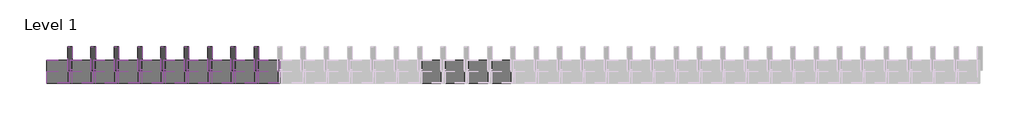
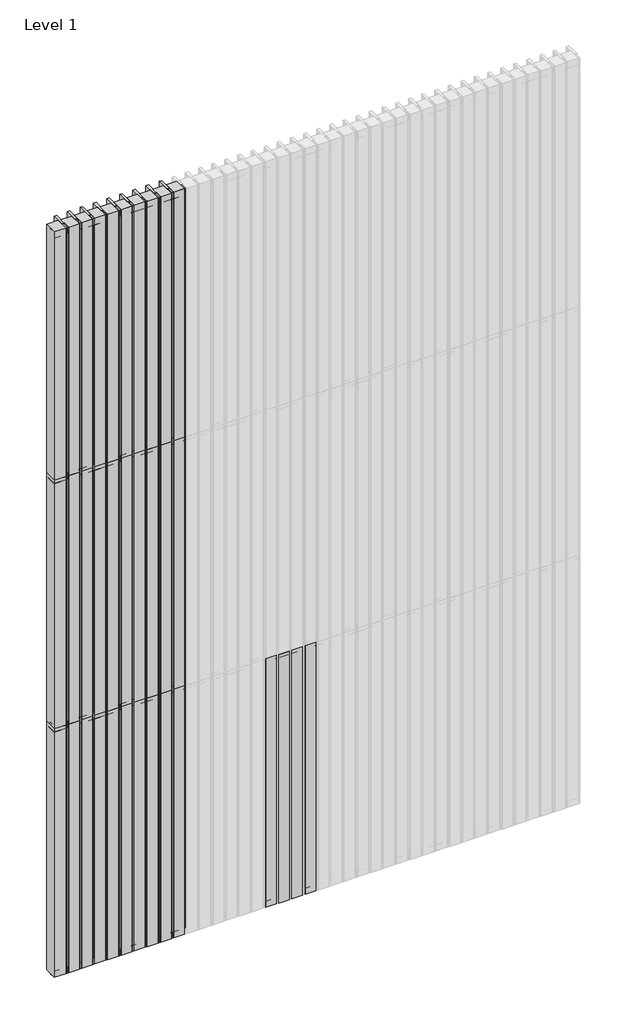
# One storey, part 1 of 6: 66 members, 64 plates.
"""IFC4 building model written with IfcOpenShell, lengths in millimetres."""

import ifcopenshell
import ifcopenshell.guid

model = None  # the IFC model being written
_history = None  # IfcOwnerHistory: only IFC2X3 demands one
_inside = {}  # id of a spatial element -> (the spatial element, [elements in it])
_under = {}  # id of a project, library or spatial element -> (it, [spatial elements below it])
_declared = {}  # id of a project -> (the project, [libraries it declares])
_typed = {}  # id of a type object -> (the type object, [elements of that type])
_made_of = {}  # id of a material, layer set ... -> (it, [elements and type objects made of it])


def new_model(schema):
    """Start an empty IFC model of exactly this schema.

    Asked for "IFC4X3", IfcOpenShell would pick the latest addendum, in which some entities
    have other attributes; the version numbers below select the first issue.
    IFC2X3 requires an IfcOwnerHistory on every rooted entity: one is made here for all.
    """
    global model, _history
    if schema == "IFC4X3":
        model = ifcopenshell.file(schema_version=(4, 3, 0, 0))
    else:
        model = ifcopenshell.file(schema=schema)
    _inside.clear()
    _under.clear()
    _declared.clear()
    _typed.clear()
    _made_of.clear()
    _history = None
    if model.schema == "IFC2X3":
        org = make("IfcOrganization", Name="unknown")
        user = make(
            "IfcPersonAndOrganization",
            ThePerson=make("IfcPerson", FamilyName="unknown"),
            TheOrganization=org,
        )
        app = make(
            "IfcApplication",
            ApplicationDeveloper=org,
            Version="unknown",
            ApplicationFullName="unknown",
            ApplicationIdentifier="unknown",
        )
        _history = make(
            "IfcOwnerHistory",
            OwningUser=user,
            OwningApplication=app,
            ChangeAction="ADDED",
            CreationDate=0,
        )
    return model


def make(cls, **values):
    """One entity of the class cls with the attributes given. An attribute that is None is left unset."""
    return model.create_entity(
        cls, **{name: value for name, value in values.items() if value is not None}
    )


def rooted(cls, **values):
    """An entity with a GlobalId (a new one), such as an element, a storey or a relation."""
    return make(cls, GlobalId=ifcopenshell.guid.new(), OwnerHistory=_history, **values)


def si_unit(unit_type, name, prefix=None):
    """IfcSIUnit, for example si_unit("LENGTHUNIT", "METRE", prefix="MILLI")."""
    return make("IfcSIUnit", UnitType=unit_type, Prefix=prefix, Name=name)


def assignment(units):
    """IfcUnitAssignment: the units of a project."""
    return None if units is None else make("IfcUnitAssignment", Units=units)


def point(xyz):
    """IfcCartesianPoint."""
    return None if xyz is None else make("IfcCartesianPoint", Coordinates=xyz)


def direction(xyz):
    """IfcDirection."""
    return None if xyz is None else make("IfcDirection", DirectionRatios=xyz)


def frame(location, z_axis=None, x_axis=None):
    """IfcAxis2Placement3D, a coordinate frame: its origin and axes. An axis left out is left unset."""
    return make(
        "IfcAxis2Placement3D",
        Location=point(location),
        Axis=direction(z_axis),
        RefDirection=direction(x_axis),
    )


def origin():
    """The frame at (0, 0, 0) with its axes left unset."""
    return frame((0.0, 0.0, 0.0))


def origin_with_axes():
    """The frame at (0, 0, 0) with the z axis (0, 0, 1) and the x axis (1, 0, 0) written out."""
    return frame((0.0, 0.0, 0.0), z_axis=(0.0, 0.0, 1.0), x_axis=(1.0, 0.0, 0.0))


def place(relative_to, where):
    """IfcLocalPlacement: puts the frame where relative to a parent placement (None: the world)."""
    return make(
        "IfcLocalPlacement", PlacementRelTo=relative_to, RelativePlacement=where
    )


def context(
    kind, dimensions, precision=None, world=None, true_north=None, identifier=None
):
    """IfcGeometricRepresentationContext, for example the 3D "Model" context."""
    return make(
        "IfcGeometricRepresentationContext",
        ContextIdentifier=identifier,
        ContextType=kind,
        CoordinateSpaceDimension=dimensions,
        Precision=precision,
        WorldCoordinateSystem=world,
        TrueNorth=true_north,
    )


def project(units=None, contexts=None):
    """IfcProject with its units and contexts."""
    return rooted(
        "IfcProject",
        Name="project",
        RepresentationContexts=contexts,
        UnitsInContext=assignment(units),
    )


def spatial(cls, under=None, at=None, **own):
    """A site, building, storey or space (cls), placed at a placement, below another one or the project."""
    s = rooted(cls, ObjectPlacement=at, **own)
    if under is not None:
        _under.setdefault(under.id(), (under, []))[1].append(s)
    return s


def polyline(points):
    """IfcPolyline through the points."""
    return make("IfcPolyline", Points=[point(p) for p in points])


def outline(outer, holes=None, kind="AREA"):
    """IfcArbitraryClosedProfileDef: a profile drawn as a closed curve; with holes, ...WithVoids."""
    if holes is None:
        return make("IfcArbitraryClosedProfileDef", ProfileType=kind, OuterCurve=outer)
    return make(
        "IfcArbitraryProfileDefWithVoids",
        ProfileType=kind,
        OuterCurve=outer,
        InnerCurves=holes,
    )


def extrude(swept, where, along, depth):
    """IfcExtrudedAreaSolid: the profile swept, set in the frame where, extruded along a direction by depth."""
    return make(
        "IfcExtrudedAreaSolid",
        SweptArea=swept,
        Position=where,
        ExtrudedDirection=direction(along),
        Depth=depth,
    )


def shape(context_of_items, identifier, shape_type, items):
    """IfcShapeRepresentation: the items that make up one representation, for example the "Body"."""
    return make(
        "IfcShapeRepresentation",
        ContextOfItems=context_of_items,
        RepresentationIdentifier=identifier,
        RepresentationType=shape_type,
        Items=items,
    )


def source(mapping_origin, context_of_items, identifier, shape_type, items):
    """IfcRepresentationMap: a shape defined once, which mapped items show again and again."""
    return make(
        "IfcRepresentationMap",
        MappingOrigin=mapping_origin,
        MappedRepresentation=shape(context_of_items, identifier, shape_type, items),
    )


def transform(
    local_origin,
    x_axis=None,
    y_axis=None,
    z_axis=None,
    scale=None,
    scale2=None,
    scale3=None,
    uniform=True,
):
    """IfcCartesianTransformationOperator3D, or its non-uniform kind. x_axis, y_axis, z_axis: its Axis1, 2, 3."""
    if uniform:
        return make(
            "IfcCartesianTransformationOperator3D",
            Axis1=direction(x_axis),
            Axis2=direction(y_axis),
            LocalOrigin=point(local_origin),
            Scale=scale,
            Axis3=direction(z_axis),
        )
    return make(
        "IfcCartesianTransformationOperator3DnonUniform",
        Axis1=direction(x_axis),
        Axis2=direction(y_axis),
        LocalOrigin=point(local_origin),
        Scale=scale,
        Axis3=direction(z_axis),
        Scale2=scale2,
        Scale3=scale3,
    )


def mapped(mapping_source, mapping_target):
    """IfcMappedItem: shows the shape of a source again, moved by a transform."""
    return make(
        "IfcMappedItem", MappingSource=mapping_source, MappingTarget=mapping_target
    )


def made_of(thing, what):
    """Note that an element or type object is made of a material, layer set ...; save() writes the relation."""
    if what is not None:
        _made_of.setdefault(what.id(), (what, []))[1].append(thing)
    return thing


def element(
    cls,
    number,
    at=None,
    inside=None,
    cuts=None,
    type_object=None,
    material=None,
    context=None,
    identifier="Body",
    shape_type=None,
    held_by="IfcProductDefinitionShape",
    body=None,
    shapes=None,
    **own,
):
    """One element of the class cls, such as IfcWall. Its Tag is "e" and its number.

    at: its placement. inside: the storey or other place that contains it. cuts: it is an
    opening in that element (IfcRelVoidsElement). A single representation is given by context,
    identifier, shape_type and body (its items); several are given by shapes. held_by: the class
    of the entity that holds the representations. save() writes the other relations.
    """
    e = rooted(cls, Tag="e%d" % number, ObjectPlacement=at, **own)
    if body is not None:
        shapes = [shape(context, identifier, shape_type, body)]
    if shapes is not None:
        e.Representation = make(held_by, Representations=shapes)
    if inside is not None:
        _inside.setdefault(inside.id(), (inside, []))[1].append(e)
    if cuts is not None:
        rooted(
            "IfcRelVoidsElement", RelatingBuildingElement=cuts, RelatedOpeningElement=e
        )
    if type_object is not None:
        _typed.setdefault(type_object.id(), (type_object, []))[1].append(e)
    return made_of(e, material)


def aggregate(whole, parts):
    """IfcRelAggregates: a whole, such as a stair, and the parts it consists of."""
    return rooted("IfcRelAggregates", RelatingObject=whole, RelatedObjects=parts)


def save(model, path):
    """Write the relations noted so far, then the file.

    IfcRelAggregates (storeys below a building ...), IfcRelContainedInSpatialStructure (elements
    in a storey), IfcRelDefinesByType, IfcRelAssociatesMaterial and IfcRelDeclares: one each for
    every whole, place, type object, material and project.
    """
    for whole, parts in _under.values():
        aggregate(whole, parts)
    for where, things in _inside.values():
        rooted(
            "IfcRelContainedInSpatialStructure",
            RelatedElements=things,
            RelatingStructure=where,
        )
    for kind, things in _typed.values():
        rooted("IfcRelDefinesByType", RelatedObjects=things, RelatingType=kind)
    for what, things in _made_of.values():
        rooted("IfcRelAssociatesMaterial", RelatedObjects=things, RelatingMaterial=what)
    for by, libraries in _declared.values():
        rooted("IfcRelDeclares", RelatingContext=by, RelatedDefinitions=libraries)
    model.write(path)


def rectangular_mullion_cddbc660(model_context):
    return source(origin(), model_context, "Body", "SweptSolid", [
        extrude(outline(polyline([(0.0, 1.0), (0.0, -49.0), (-50.0, -49.0), (-50.0, 1.0), (0.0, 1.0)])), frame((0.0, 0.0, -100.0), z_axis=(0.0, 0.0, 1.0), x_axis=(1.0, 0.0, 0.0)), (0.0, 0.0, 1.0), 100.0),
    ])


def rectangular_mullion_a3e25429(model_context):
    return source(origin(), model_context, "Body", "SweptSolid", [
        extrude(outline(polyline([(-50.0, 1.0), (0.0, 1.0), (0.0, -49.0), (-50.0, -49.0), (-50.0, 1.0)])), frame((0.0, 0.0, -100.0), z_axis=(0.0, 0.0, 1.0), x_axis=(1.0, 0.0, 0.0)), (0.0, 0.0, 1.0), 100.0),
    ])


def rectangular_mullion_ae434dd9(model_context):
    return source(origin(), model_context, "Body", "SweptSolid", [
        extrude(outline(polyline([(25.0, 1.0), (25.0, -49.0), (-25.0, -49.0), (-25.0, 1.0), (25.0, 1.0)])), frame((0.0, 0.0, -100.0), z_axis=(0.0, 0.0, 1.0), x_axis=(1.0, 0.0, 0.0)), (0.0, 0.0, 1.0), 100.0),
    ])


def rectangular_mullion_30cdfca6(model_context):
    return source(origin(), model_context, "Body", "SweptSolid", [
        extrude(outline(polyline([(-10.0, 7.0), (-10.0, 107.0), (10.0, 107.0), (10.0, 7.0), (-10.0, 7.0)])), frame((0.0, 0.0, -2000.0), z_axis=(0.0, 0.0, 1.0), x_axis=(1.0, 0.0, 0.0)), (0.0, 0.0, 1.0), 2000.0),
    ])


def empty_system_panel_empty_5411477d(model_context):
    return source(origin(), model_context, "Body", "SweptSolid", [
        extrude(outline(polyline([(50.0, -50.0), (-50.0, -50.0), (-50.0, 50.0), (50.0, 50.0), (50.0, -50.0)])), origin_with_axes(), (0.0, 0.0, 1.0), 1925.0),
    ])


def empty_system_panel_empty_c50988b4(model_context):
    return source(origin(), model_context, "Body", "SweptSolid", [
        extrude(outline(polyline([(50.0, -50.0), (-50.0, -50.0), (-50.0, 50.0), (50.0, 50.0), (50.0, -50.0)])), origin_with_axes(), (0.0, 0.0, 1.0), 1950.0),
    ])


def empty_system_panel_empty_7f011ee1(model_context):
    return source(origin(), model_context, "Body", "SweptSolid", [
        extrude(outline(polyline([(45.0, -50.0), (-45.0, -50.0), (-45.0, 50.0), (45.0, 50.0), (45.0, -50.0)])), origin_with_axes(), (0.0, 0.0, 1.0), 2000.0),
    ])


def empty_system_panel_empty_3767e820(model_context):
    return source(origin(), model_context, "Body", "SweptSolid", [
        extrude(outline(polyline([(40.0, -50.0), (-40.0, -50.0), (-40.0, 50.0), (40.0, 50.0), (40.0, -50.0)])), origin_with_axes(), (0.0, 0.0, 1.0), 2000.0),
    ])


model = new_model("IFC4")

# Units and contexts
model_context = context("Model", 3, world=origin())
ifc_project = project(units=[si_unit("LENGTHUNIT", "METRE", prefix="MILLI")], contexts=[model_context])

# Site, building, storey
site = spatial("IfcSite", under=ifc_project)
building = spatial("IfcBuilding", under=site)
storey = spatial("IfcBuildingStorey", under=building, Name="Level 1", Elevation=0.0)

# Members
placement = place(None, origin())
rectangular_mullion_shape = rectangular_mullion_cddbc660(model_context)
element("IfcMember", 1, ObjectType="Rectangular Mullion : RSen_21_CWM_support profile 50x50 - left_gen_duco projects", at=placement, inside=storey, context=model_context, shape_type="MappedRepresentation", body=[
    mapped(rectangular_mullion_shape, transform((0.0, 3000.0, 6000.0), x_axis=(0.0, 0.0, 1.0), y_axis=(0.0, 1.0, 0.0), z_axis=(-1.0, 0.0, 0.0))),
])
element("IfcMember", 2, ObjectType="Rectangular Mullion : RSen_21_CWM_support profile 50x50 - left_gen_duco projects", at=placement, inside=storey, context=model_context, shape_type="MappedRepresentation", body=[
    mapped(rectangular_mullion_shape, transform((900.0, 3000.0, 6000.0), x_axis=(0.0, 0.0, 1.0), y_axis=(0.0, 1.0, 0.0), z_axis=(-1.0, 0.0, 0.0))),
])
element("IfcMember", 3, ObjectType="Rectangular Mullion : RSen_21_CWM_support profile 50x50 - left_gen_duco projects", at=placement, inside=storey, context=model_context, shape_type="MappedRepresentation", body=[
    mapped(rectangular_mullion_shape, transform((800.0, 3000.0, 6000.0), x_axis=(0.0, 0.0, 1.0), y_axis=(0.0, 1.0, 0.0), z_axis=(-1.0, 0.0, 0.0))),
])
element("IfcMember", 4, ObjectType="Rectangular Mullion : RSen_21_CWM_support profile 50x50 - left_gen_duco projects", at=placement, inside=storey, context=model_context, shape_type="MappedRepresentation", body=[
    mapped(rectangular_mullion_shape, transform((700.0, 3000.0, 6000.0), x_axis=(0.0, 0.0, 1.0), y_axis=(0.0, 1.0, 0.0), z_axis=(-1.0, 0.0, 0.0))),
])
element("IfcMember", 5, ObjectType="Rectangular Mullion : RSen_21_CWM_support profile 50x50 - left_gen_duco projects", at=placement, inside=storey, context=model_context, shape_type="MappedRepresentation", body=[
    mapped(rectangular_mullion_shape, transform((600.0, 3000.0, 6000.0), x_axis=(0.0, 0.0, 1.0), y_axis=(0.0, 1.0, 0.0), z_axis=(-1.0, 0.0, 0.0))),
])
element("IfcMember", 6, ObjectType="Rectangular Mullion : RSen_21_CWM_support profile 50x50 - left_gen_duco projects", at=placement, inside=storey, context=model_context, shape_type="MappedRepresentation", body=[
    mapped(rectangular_mullion_shape, transform((500.0, 3000.0, 6000.0), x_axis=(0.0, 0.0, 1.0), y_axis=(0.0, 1.0, 0.0), z_axis=(-1.0, 0.0, 0.0))),
])
element("IfcMember", 7, ObjectType="Rectangular Mullion : RSen_21_CWM_support profile 50x50 - left_gen_duco projects", at=placement, inside=storey, context=model_context, shape_type="MappedRepresentation", body=[
    mapped(rectangular_mullion_shape, transform((400.0, 3000.0, 6000.0), x_axis=(0.0, 0.0, 1.0), y_axis=(0.0, 1.0, 0.0), z_axis=(-1.0, 0.0, 0.0))),
])
element("IfcMember", 8, ObjectType="Rectangular Mullion : RSen_21_CWM_support profile 50x50 - left_gen_duco projects", at=placement, inside=storey, context=model_context, shape_type="MappedRepresentation", body=[
    mapped(rectangular_mullion_shape, transform((300.0, 3000.0, 6000.0), x_axis=(0.0, 0.0, 1.0), y_axis=(0.0, 1.0, 0.0), z_axis=(-1.0, 0.0, 0.0))),
])
element("IfcMember", 9, ObjectType="Rectangular Mullion : RSen_21_CWM_support profile 50x50 - left_gen_duco projects", at=placement, inside=storey, context=model_context, shape_type="MappedRepresentation", body=[
    mapped(rectangular_mullion_shape, transform((200.0, 3000.0, 6000.0), x_axis=(0.0, 0.0, 1.0), y_axis=(0.0, 1.0, 0.0), z_axis=(-1.0, 0.0, 0.0))),
])
element("IfcMember", 10, ObjectType="Rectangular Mullion : RSen_21_CWM_support profile 50x50 - left_gen_duco projects", at=placement, inside=storey, context=model_context, shape_type="MappedRepresentation", body=[
    mapped(rectangular_mullion_shape, transform((100.0, 3000.0, 6000.0), x_axis=(0.0, 0.0, 1.0), y_axis=(0.0, 1.0, 0.0), z_axis=(-1.0, 0.0, 0.0))),
])
rectangular_mullion_2_shape = rectangular_mullion_a3e25429(model_context)
element("IfcMember", 11, ObjectType="Rectangular Mullion : RSen_21_CWM_support profile 50x50 - right_gen_duco projects", at=placement, inside=storey, context=model_context, shape_type="MappedRepresentation", body=[
    mapped(rectangular_mullion_2_shape, transform((900.0, 3000.0, 0.0), x_axis=(0.0, 0.0, -1.0), y_axis=(0.0, 1.0, 0.0), z_axis=(1.0, 0.0, 0.0))),
])
element("IfcMember", 12, ObjectType="Rectangular Mullion : RSen_21_CWM_support profile 50x50 - right_gen_duco projects", at=placement, inside=storey, context=model_context, shape_type="MappedRepresentation", body=[
    mapped(rectangular_mullion_2_shape, transform((800.0, 3000.0, 0.0), x_axis=(0.0, 0.0, -1.0), y_axis=(0.0, 1.0, 0.0), z_axis=(1.0, 0.0, 0.0))),
])
element("IfcMember", 13, ObjectType="Rectangular Mullion : RSen_21_CWM_support profile 50x50 - right_gen_duco projects", at=placement, inside=storey, context=model_context, shape_type="MappedRepresentation", body=[
    mapped(rectangular_mullion_2_shape, transform((700.0, 3000.0, 0.0), x_axis=(0.0, 0.0, -1.0), y_axis=(0.0, 1.0, 0.0), z_axis=(1.0, 0.0, 0.0))),
])
element("IfcMember", 14, ObjectType="Rectangular Mullion : RSen_21_CWM_support profile 50x50 - right_gen_duco projects", at=placement, inside=storey, context=model_context, shape_type="MappedRepresentation", body=[
    mapped(rectangular_mullion_2_shape, transform((600.0, 3000.0, 0.0), x_axis=(0.0, 0.0, -1.0), y_axis=(0.0, 1.0, 0.0), z_axis=(1.0, 0.0, 0.0))),
])
element("IfcMember", 15, ObjectType="Rectangular Mullion : RSen_21_CWM_support profile 50x50 - right_gen_duco projects", at=placement, inside=storey, context=model_context, shape_type="MappedRepresentation", body=[
    mapped(rectangular_mullion_2_shape, transform((500.0, 3000.0, 0.0), x_axis=(0.0, 0.0, -1.0), y_axis=(0.0, 1.0, 0.0), z_axis=(1.0, 0.0, 0.0))),
])
element("IfcMember", 16, ObjectType="Rectangular Mullion : RSen_21_CWM_support profile 50x50 - right_gen_duco projects", at=placement, inside=storey, context=model_context, shape_type="MappedRepresentation", body=[
    mapped(rectangular_mullion_2_shape, transform((400.0, 3000.0, 0.0), x_axis=(0.0, 0.0, -1.0), y_axis=(0.0, 1.0, 0.0), z_axis=(1.0, 0.0, 0.0))),
])
element("IfcMember", 17, ObjectType="Rectangular Mullion : RSen_21_CWM_support profile 50x50 - right_gen_duco projects", at=placement, inside=storey, context=model_context, shape_type="MappedRepresentation", body=[
    mapped(rectangular_mullion_2_shape, transform((300.0, 3000.0, 0.0), x_axis=(0.0, 0.0, -1.0), y_axis=(0.0, 1.0, 0.0), z_axis=(1.0, 0.0, 0.0))),
])
element("IfcMember", 18, ObjectType="Rectangular Mullion : RSen_21_CWM_support profile 50x50 - right_gen_duco projects", at=placement, inside=storey, context=model_context, shape_type="MappedRepresentation", body=[
    mapped(rectangular_mullion_2_shape, transform((200.0, 3000.0, 0.0), x_axis=(0.0, 0.0, -1.0), y_axis=(0.0, 1.0, 0.0), z_axis=(1.0, 0.0, 0.0))),
])
element("IfcMember", 19, ObjectType="Rectangular Mullion : RSen_21_CWM_support profile 50x50 - right_gen_duco projects", at=placement, inside=storey, context=model_context, shape_type="MappedRepresentation", body=[
    mapped(rectangular_mullion_2_shape, transform((100.0, 3000.0, 0.0), x_axis=(0.0, 0.0, -1.0), y_axis=(0.0, 1.0, 0.0), z_axis=(1.0, 0.0, 0.0))),
])
rectangular_mullion_3_shape = rectangular_mullion_ae434dd9(model_context)
element("IfcMember", 20, ObjectType="Rectangular Mullion : RSen_21_CWM_support profile 50x50_gen_duco projects", at=placement, inside=storey, context=model_context, shape_type="MappedRepresentation", body=[
    mapped(rectangular_mullion_3_shape, transform((900.0, 3000.0, 2000.0), x_axis=(0.0, 0.0, 1.0), y_axis=(0.0, 1.0, 0.0), z_axis=(-1.0, 0.0, 0.0))),
])
element("IfcMember", 21, ObjectType="Rectangular Mullion : RSen_21_CWM_support profile 50x50_gen_duco projects", at=placement, inside=storey, context=model_context, shape_type="MappedRepresentation", body=[
    mapped(rectangular_mullion_3_shape, transform((800.0, 3000.0, 2000.0), x_axis=(0.0, 0.0, 1.0), y_axis=(0.0, 1.0, 0.0), z_axis=(-1.0, 0.0, 0.0))),
])
element("IfcMember", 22, ObjectType="Rectangular Mullion : RSen_21_CWM_support profile 50x50_gen_duco projects", at=placement, inside=storey, context=model_context, shape_type="MappedRepresentation", body=[
    mapped(rectangular_mullion_3_shape, transform((700.0, 3000.0, 2000.0), x_axis=(0.0, 0.0, 1.0), y_axis=(0.0, 1.0, 0.0), z_axis=(-1.0, 0.0, 0.0))),
])
element("IfcMember", 23, ObjectType="Rectangular Mullion : RSen_21_CWM_support profile 50x50_gen_duco projects", at=placement, inside=storey, context=model_context, shape_type="MappedRepresentation", body=[
    mapped(rectangular_mullion_3_shape, transform((600.0, 3000.0, 2000.0), x_axis=(0.0, 0.0, 1.0), y_axis=(0.0, 1.0, 0.0), z_axis=(-1.0, 0.0, 0.0))),
])
element("IfcMember", 24, ObjectType="Rectangular Mullion : RSen_21_CWM_support profile 50x50_gen_duco projects", at=placement, inside=storey, context=model_context, shape_type="MappedRepresentation", body=[
    mapped(rectangular_mullion_3_shape, transform((500.0, 3000.0, 2000.0), x_axis=(0.0, 0.0, 1.0), y_axis=(0.0, 1.0, 0.0), z_axis=(-1.0, 0.0, 0.0))),
])
element("IfcMember", 25, ObjectType="Rectangular Mullion : RSen_21_CWM_support profile 50x50_gen_duco projects", at=placement, inside=storey, context=model_context, shape_type="MappedRepresentation", body=[
    mapped(rectangular_mullion_3_shape, transform((400.0, 3000.0, 2000.0), x_axis=(0.0, 0.0, 1.0), y_axis=(0.0, 1.0, 0.0), z_axis=(-1.0, 0.0, 0.0))),
])
element("IfcMember", 26, ObjectType="Rectangular Mullion : RSen_21_CWM_support profile 50x50_gen_duco projects", at=placement, inside=storey, context=model_context, shape_type="MappedRepresentation", body=[
    mapped(rectangular_mullion_3_shape, transform((300.0, 3000.0, 2000.0), x_axis=(0.0, 0.0, 1.0), y_axis=(0.0, 1.0, 0.0), z_axis=(-1.0, 0.0, 0.0))),
])
element("IfcMember", 27, ObjectType="Rectangular Mullion : RSen_21_CWM_support profile 50x50_gen_duco projects", at=placement, inside=storey, context=model_context, shape_type="MappedRepresentation", body=[
    mapped(rectangular_mullion_3_shape, transform((200.0, 3000.0, 2000.0), x_axis=(0.0, 0.0, 1.0), y_axis=(0.0, 1.0, 0.0), z_axis=(-1.0, 0.0, 0.0))),
])
element("IfcMember", 28, ObjectType="Rectangular Mullion : RSen_21_CWM_support profile 50x50_gen_duco projects", at=placement, inside=storey, context=model_context, shape_type="MappedRepresentation", body=[
    mapped(rectangular_mullion_3_shape, transform((100.0, 3000.0, 2000.0), x_axis=(0.0, 0.0, 1.0), y_axis=(0.0, 1.0, 0.0), z_axis=(-1.0, 0.0, 0.0))),
])
element("IfcMember", 29, ObjectType="Rectangular Mullion : RSen_21_CWM_support profile 50x50_gen_duco projects", at=placement, inside=storey, context=model_context, shape_type="MappedRepresentation", body=[
    mapped(rectangular_mullion_3_shape, transform((900.0, 3000.0, 4000.0), x_axis=(0.0, 0.0, 1.0), y_axis=(0.0, 1.0, 0.0), z_axis=(-1.0, 0.0, 0.0))),
])
element("IfcMember", 30, ObjectType="Rectangular Mullion : RSen_21_CWM_support profile 50x50_gen_duco projects", at=placement, inside=storey, context=model_context, shape_type="MappedRepresentation", body=[
    mapped(rectangular_mullion_3_shape, transform((800.0, 3000.0, 4000.0), x_axis=(0.0, 0.0, 1.0), y_axis=(0.0, 1.0, 0.0), z_axis=(-1.0, 0.0, 0.0))),
])
element("IfcMember", 31, ObjectType="Rectangular Mullion : RSen_21_CWM_support profile 50x50_gen_duco projects", at=placement, inside=storey, context=model_context, shape_type="MappedRepresentation", body=[
    mapped(rectangular_mullion_3_shape, transform((700.0, 3000.0, 4000.0), x_axis=(0.0, 0.0, 1.0), y_axis=(0.0, 1.0, 0.0), z_axis=(-1.0, 0.0, 0.0))),
])
element("IfcMember", 32, ObjectType="Rectangular Mullion : RSen_21_CWM_support profile 50x50_gen_duco projects", at=placement, inside=storey, context=model_context, shape_type="MappedRepresentation", body=[
    mapped(rectangular_mullion_3_shape, transform((600.0, 3000.0, 4000.0), x_axis=(0.0, 0.0, 1.0), y_axis=(0.0, 1.0, 0.0), z_axis=(-1.0, 0.0, 0.0))),
])
element("IfcMember", 33, ObjectType="Rectangular Mullion : RSen_21_CWM_support profile 50x50_gen_duco projects", at=placement, inside=storey, context=model_context, shape_type="MappedRepresentation", body=[
    mapped(rectangular_mullion_3_shape, transform((500.0, 3000.0, 4000.0), x_axis=(0.0, 0.0, 1.0), y_axis=(0.0, 1.0, 0.0), z_axis=(-1.0, 0.0, 0.0))),
])
element("IfcMember", 34, ObjectType="Rectangular Mullion : RSen_21_CWM_support profile 50x50_gen_duco projects", at=placement, inside=storey, context=model_context, shape_type="MappedRepresentation", body=[
    mapped(rectangular_mullion_3_shape, transform((400.0, 3000.0, 4000.0), x_axis=(0.0, 0.0, 1.0), y_axis=(0.0, 1.0, 0.0), z_axis=(-1.0, 0.0, 0.0))),
])
element("IfcMember", 35, ObjectType="Rectangular Mullion : RSen_21_CWM_support profile 50x50_gen_duco projects", at=placement, inside=storey, context=model_context, shape_type="MappedRepresentation", body=[
    mapped(rectangular_mullion_3_shape, transform((300.0, 3000.0, 4000.0), x_axis=(0.0, 0.0, 1.0), y_axis=(0.0, 1.0, 0.0), z_axis=(-1.0, 0.0, 0.0))),
])
element("IfcMember", 36, ObjectType="Rectangular Mullion : RSen_21_CWM_support profile 50x50_gen_duco projects", at=placement, inside=storey, context=model_context, shape_type="MappedRepresentation", body=[
    mapped(rectangular_mullion_3_shape, transform((200.0, 3000.0, 4000.0), x_axis=(0.0, 0.0, 1.0), y_axis=(0.0, 1.0, 0.0), z_axis=(-1.0, 0.0, 0.0))),
])
element("IfcMember", 37, ObjectType="Rectangular Mullion : RSen_21_CWM_support profile 50x50_gen_duco projects", at=placement, inside=storey, context=model_context, shape_type="MappedRepresentation", body=[
    mapped(rectangular_mullion_3_shape, transform((100.0, 3000.0, 4000.0), x_axis=(0.0, 0.0, 1.0), y_axis=(0.0, 1.0, 0.0), z_axis=(-1.0, 0.0, 0.0))),
])
element("IfcMember", 38, ObjectType="Rectangular Mullion : RSen_21_CWM_support profile 50x50_gen_duco projects", at=placement, inside=storey, context=model_context, shape_type="MappedRepresentation", body=[
    mapped(rectangular_mullion_3_shape, transform((0.0, 3000.0, 2000.0), x_axis=(0.0, 0.0, 1.0), y_axis=(0.0, 1.0, 0.0), z_axis=(-1.0, 0.0, 0.0))),
])
element("IfcMember", 39, ObjectType="Rectangular Mullion : RSen_21_CWM_support profile 50x50_gen_duco projects", at=placement, inside=storey, context=model_context, shape_type="MappedRepresentation", body=[
    mapped(rectangular_mullion_3_shape, transform((0.0, 3000.0, 4000.0), x_axis=(0.0, 0.0, 1.0), y_axis=(0.0, 1.0, 0.0), z_axis=(-1.0, 0.0, 0.0))),
])
rectangular_mullion_4_shape = rectangular_mullion_30cdfca6(model_context)
element("IfcMember", 40, ObjectType="Rectangular Mullion : RSen_21_CWM_blade - cubic 100 - 0°_gen_duco projects", at=placement, inside=storey, context=model_context, shape_type="MappedRepresentation", body=[
    mapped(rectangular_mullion_4_shape, transform((900.0, 3000.0, 0.0), x_axis=(-1.0, 0.0, 0.0), y_axis=(0.0, 1.0, 0.0), z_axis=(0.0, 0.0, -1.0))),
])
element("IfcMember", 41, ObjectType="Rectangular Mullion : RSen_21_CWM_blade - cubic 100 - 0°_gen_duco projects", at=placement, inside=storey, context=model_context, shape_type="MappedRepresentation", body=[
    mapped(rectangular_mullion_4_shape, transform((800.0, 3000.0, 0.0), x_axis=(-1.0, 0.0, 0.0), y_axis=(0.0, 1.0, 0.0), z_axis=(0.0, 0.0, -1.0))),
])
element("IfcMember", 42, ObjectType="Rectangular Mullion : RSen_21_CWM_blade - cubic 100 - 0°_gen_duco projects", at=placement, inside=storey, context=model_context, shape_type="MappedRepresentation", body=[
    mapped(rectangular_mullion_4_shape, transform((700.0, 3000.0, 0.0), x_axis=(-1.0, 0.0, 0.0), y_axis=(0.0, 1.0, 0.0), z_axis=(0.0, 0.0, -1.0))),
])
element("IfcMember", 43, ObjectType="Rectangular Mullion : RSen_21_CWM_blade - cubic 100 - 0°_gen_duco projects", at=placement, inside=storey, context=model_context, shape_type="MappedRepresentation", body=[
    mapped(rectangular_mullion_4_shape, transform((600.0, 3000.0, 0.0), x_axis=(-1.0, 0.0, 0.0), y_axis=(0.0, 1.0, 0.0), z_axis=(0.0, 0.0, -1.0))),
])
element("IfcMember", 44, ObjectType="Rectangular Mullion : RSen_21_CWM_blade - cubic 100 - 0°_gen_duco projects", at=placement, inside=storey, context=model_context, shape_type="MappedRepresentation", body=[
    mapped(rectangular_mullion_4_shape, transform((500.0, 3000.0, 0.0), x_axis=(-1.0, 0.0, 0.0), y_axis=(0.0, 1.0, 0.0), z_axis=(0.0, 0.0, -1.0))),
])
element("IfcMember", 45, ObjectType="Rectangular Mullion : RSen_21_CWM_blade - cubic 100 - 0°_gen_duco projects", at=placement, inside=storey, context=model_context, shape_type="MappedRepresentation", body=[
    mapped(rectangular_mullion_4_shape, transform((400.0, 3000.0, 0.0), x_axis=(-1.0, 0.0, 0.0), y_axis=(0.0, 1.0, 0.0), z_axis=(0.0, 0.0, -1.0))),
])
element("IfcMember", 46, ObjectType="Rectangular Mullion : RSen_21_CWM_blade - cubic 100 - 0°_gen_duco projects", at=placement, inside=storey, context=model_context, shape_type="MappedRepresentation", body=[
    mapped(rectangular_mullion_4_shape, transform((300.0, 3000.0, 0.0), x_axis=(-1.0, 0.0, 0.0), y_axis=(0.0, 1.0, 0.0), z_axis=(0.0, 0.0, -1.0))),
])
element("IfcMember", 47, ObjectType="Rectangular Mullion : RSen_21_CWM_blade - cubic 100 - 0°_gen_duco projects", at=placement, inside=storey, context=model_context, shape_type="MappedRepresentation", body=[
    mapped(rectangular_mullion_4_shape, transform((200.0, 3000.0, 0.0), x_axis=(-1.0, 0.0, 0.0), y_axis=(0.0, 1.0, 0.0), z_axis=(0.0, 0.0, -1.0))),
])
element("IfcMember", 48, ObjectType="Rectangular Mullion : RSen_21_CWM_blade - cubic 100 - 0°_gen_duco projects", at=placement, inside=storey, context=model_context, shape_type="MappedRepresentation", body=[
    mapped(rectangular_mullion_4_shape, transform((100.0, 3000.0, 0.0), x_axis=(-1.0, 0.0, 0.0), y_axis=(0.0, 1.0, 0.0), z_axis=(0.0, 0.0, -1.0))),
])
element("IfcMember", 49, ObjectType="Rectangular Mullion : RSen_21_CWM_blade - cubic 100 - 0°_gen_duco projects", at=placement, inside=storey, context=model_context, shape_type="MappedRepresentation", body=[
    mapped(rectangular_mullion_4_shape, transform((900.0, 3000.0, 2000.0), x_axis=(-1.0, 0.0, 0.0), y_axis=(0.0, 1.0, 0.0), z_axis=(0.0, 0.0, -1.0))),
])
element("IfcMember", 50, ObjectType="Rectangular Mullion : RSen_21_CWM_blade - cubic 100 - 0°_gen_duco projects", at=placement, inside=storey, context=model_context, shape_type="MappedRepresentation", body=[
    mapped(rectangular_mullion_4_shape, transform((800.0, 3000.0, 2000.0), x_axis=(-1.0, 0.0, 0.0), y_axis=(0.0, 1.0, 0.0), z_axis=(0.0, 0.0, -1.0))),
])
element("IfcMember", 51, ObjectType="Rectangular Mullion : RSen_21_CWM_blade - cubic 100 - 0°_gen_duco projects", at=placement, inside=storey, context=model_context, shape_type="MappedRepresentation", body=[
    mapped(rectangular_mullion_4_shape, transform((700.0, 3000.0, 2000.0), x_axis=(-1.0, 0.0, 0.0), y_axis=(0.0, 1.0, 0.0), z_axis=(0.0, 0.0, -1.0))),
])
element("IfcMember", 52, ObjectType="Rectangular Mullion : RSen_21_CWM_blade - cubic 100 - 0°_gen_duco projects", at=placement, inside=storey, context=model_context, shape_type="MappedRepresentation", body=[
    mapped(rectangular_mullion_4_shape, transform((600.0, 3000.0, 2000.0), x_axis=(-1.0, 0.0, 0.0), y_axis=(0.0, 1.0, 0.0), z_axis=(0.0, 0.0, -1.0))),
])
element("IfcMember", 53, ObjectType="Rectangular Mullion : RSen_21_CWM_blade - cubic 100 - 0°_gen_duco projects", at=placement, inside=storey, context=model_context, shape_type="MappedRepresentation", body=[
    mapped(rectangular_mullion_4_shape, transform((500.0, 3000.0, 2000.0), x_axis=(-1.0, 0.0, 0.0), y_axis=(0.0, 1.0, 0.0), z_axis=(0.0, 0.0, -1.0))),
])
element("IfcMember", 54, ObjectType="Rectangular Mullion : RSen_21_CWM_blade - cubic 100 - 0°_gen_duco projects", at=placement, inside=storey, context=model_context, shape_type="MappedRepresentation", body=[
    mapped(rectangular_mullion_4_shape, transform((400.0, 3000.0, 2000.0), x_axis=(-1.0, 0.0, 0.0), y_axis=(0.0, 1.0, 0.0), z_axis=(0.0, 0.0, -1.0))),
])
element("IfcMember", 55, ObjectType="Rectangular Mullion : RSen_21_CWM_blade - cubic 100 - 0°_gen_duco projects", at=placement, inside=storey, context=model_context, shape_type="MappedRepresentation", body=[
    mapped(rectangular_mullion_4_shape, transform((300.0, 3000.0, 2000.0), x_axis=(-1.0, 0.0, 0.0), y_axis=(0.0, 1.0, 0.0), z_axis=(0.0, 0.0, -1.0))),
])
element("IfcMember", 56, ObjectType="Rectangular Mullion : RSen_21_CWM_blade - cubic 100 - 0°_gen_duco projects", at=placement, inside=storey, context=model_context, shape_type="MappedRepresentation", body=[
    mapped(rectangular_mullion_4_shape, transform((200.0, 3000.0, 2000.0), x_axis=(-1.0, 0.0, 0.0), y_axis=(0.0, 1.0, 0.0), z_axis=(0.0, 0.0, -1.0))),
])
element("IfcMember", 57, ObjectType="Rectangular Mullion : RSen_21_CWM_blade - cubic 100 - 0°_gen_duco projects", at=placement, inside=storey, context=model_context, shape_type="MappedRepresentation", body=[
    mapped(rectangular_mullion_4_shape, transform((100.0, 3000.0, 2000.0), x_axis=(-1.0, 0.0, 0.0), y_axis=(0.0, 1.0, 0.0), z_axis=(0.0, 0.0, -1.0))),
])
element("IfcMember", 58, ObjectType="Rectangular Mullion : RSen_21_CWM_blade - cubic 100 - 0°_gen_duco projects", at=placement, inside=storey, context=model_context, shape_type="MappedRepresentation", body=[
    mapped(rectangular_mullion_4_shape, transform((900.0, 3000.0, 4000.0), x_axis=(-1.0, 0.0, 0.0), y_axis=(0.0, 1.0, 0.0), z_axis=(0.0, 0.0, -1.0))),
])
element("IfcMember", 59, ObjectType="Rectangular Mullion : RSen_21_CWM_blade - cubic 100 - 0°_gen_duco projects", at=placement, inside=storey, context=model_context, shape_type="MappedRepresentation", body=[
    mapped(rectangular_mullion_4_shape, transform((800.0, 3000.0, 4000.0), x_axis=(-1.0, 0.0, 0.0), y_axis=(0.0, 1.0, 0.0), z_axis=(0.0, 0.0, -1.0))),
])
element("IfcMember", 60, ObjectType="Rectangular Mullion : RSen_21_CWM_blade - cubic 100 - 0°_gen_duco projects", at=placement, inside=storey, context=model_context, shape_type="MappedRepresentation", body=[
    mapped(rectangular_mullion_4_shape, transform((700.0, 3000.0, 4000.0), x_axis=(-1.0, 0.0, 0.0), y_axis=(0.0, 1.0, 0.0), z_axis=(0.0, 0.0, -1.0))),
])
element("IfcMember", 61, ObjectType="Rectangular Mullion : RSen_21_CWM_blade - cubic 100 - 0°_gen_duco projects", at=placement, inside=storey, context=model_context, shape_type="MappedRepresentation", body=[
    mapped(rectangular_mullion_4_shape, transform((600.0, 3000.0, 4000.0), x_axis=(-1.0, 0.0, 0.0), y_axis=(0.0, 1.0, 0.0), z_axis=(0.0, 0.0, -1.0))),
])
element("IfcMember", 62, ObjectType="Rectangular Mullion : RSen_21_CWM_blade - cubic 100 - 0°_gen_duco projects", at=placement, inside=storey, context=model_context, shape_type="MappedRepresentation", body=[
    mapped(rectangular_mullion_4_shape, transform((500.0, 3000.0, 4000.0), x_axis=(-1.0, 0.0, 0.0), y_axis=(0.0, 1.0, 0.0), z_axis=(0.0, 0.0, -1.0))),
])
element("IfcMember", 63, ObjectType="Rectangular Mullion : RSen_21_CWM_blade - cubic 100 - 0°_gen_duco projects", at=placement, inside=storey, context=model_context, shape_type="MappedRepresentation", body=[
    mapped(rectangular_mullion_4_shape, transform((400.0, 3000.0, 4000.0), x_axis=(-1.0, 0.0, 0.0), y_axis=(0.0, 1.0, 0.0), z_axis=(0.0, 0.0, -1.0))),
])
element("IfcMember", 64, ObjectType="Rectangular Mullion : RSen_21_CWM_blade - cubic 100 - 0°_gen_duco projects", at=placement, inside=storey, context=model_context, shape_type="MappedRepresentation", body=[
    mapped(rectangular_mullion_4_shape, transform((300.0, 3000.0, 4000.0), x_axis=(-1.0, 0.0, 0.0), y_axis=(0.0, 1.0, 0.0), z_axis=(0.0, 0.0, -1.0))),
])
element("IfcMember", 65, ObjectType="Rectangular Mullion : RSen_21_CWM_blade - cubic 100 - 0°_gen_duco projects", at=placement, inside=storey, context=model_context, shape_type="MappedRepresentation", body=[
    mapped(rectangular_mullion_4_shape, transform((200.0, 3000.0, 4000.0), x_axis=(-1.0, 0.0, 0.0), y_axis=(0.0, 1.0, 0.0), z_axis=(0.0, 0.0, -1.0))),
])
element("IfcMember", 66, ObjectType="Rectangular Mullion : RSen_21_CWM_blade - cubic 100 - 0°_gen_duco projects", at=placement, inside=storey, context=model_context, shape_type="MappedRepresentation", body=[
    mapped(rectangular_mullion_4_shape, transform((100.0, 3000.0, 4000.0), x_axis=(-1.0, 0.0, 0.0), y_axis=(0.0, 1.0, 0.0), z_axis=(0.0, 0.0, -1.0))),
])

# Plates
empty_system_panel_empty_shape = empty_system_panel_empty_5411477d(model_context)
element("IfcPlate", 67, ObjectType="Empty System Panel : Empty", at=placement, inside=storey, context=model_context, shape_type="MappedRepresentation", body=[
    mapped(empty_system_panel_empty_shape, transform((950.0, 3000.0, 50.0), x_axis=(-1.0, 0.0, 0.0), y_axis=(0.0, -1.0, 0.0), z_axis=(0.0, 0.0, 1.0))),
])
element("IfcPlate", 68, ObjectType="Empty System Panel : Empty", at=placement, inside=storey, context=model_context, shape_type="MappedRepresentation", body=[
    mapped(empty_system_panel_empty_shape, transform((850.0, 3000.0, 50.0), x_axis=(-1.0, 0.0, 0.0), y_axis=(0.0, -1.0, 0.0), z_axis=(0.0, 0.0, 1.0))),
])
element("IfcPlate", 69, ObjectType="Empty System Panel : Empty", at=placement, inside=storey, context=model_context, shape_type="MappedRepresentation", body=[
    mapped(empty_system_panel_empty_shape, transform((750.0, 3000.0, 50.0), x_axis=(-1.0, 0.0, 0.0), y_axis=(0.0, -1.0, 0.0), z_axis=(0.0, 0.0, 1.0))),
])
element("IfcPlate", 70, ObjectType="Empty System Panel : Empty", at=placement, inside=storey, context=model_context, shape_type="MappedRepresentation", body=[
    mapped(empty_system_panel_empty_shape, transform((650.0, 3000.0, 50.0), x_axis=(-1.0, 0.0, 0.0), y_axis=(0.0, -1.0, 0.0), z_axis=(0.0, 0.0, 1.0))),
])
element("IfcPlate", 71, ObjectType="Empty System Panel : Empty", at=placement, inside=storey, context=model_context, shape_type="MappedRepresentation", body=[
    mapped(empty_system_panel_empty_shape, transform((550.0, 3000.0, 50.0), x_axis=(-1.0, 0.0, 0.0), y_axis=(0.0, -1.0, 0.0), z_axis=(0.0, 0.0, 1.0))),
])
element("IfcPlate", 72, ObjectType="Empty System Panel : Empty", at=placement, inside=storey, context=model_context, shape_type="MappedRepresentation", body=[
    mapped(empty_system_panel_empty_shape, transform((450.0, 3000.0, 50.0), x_axis=(-1.0, 0.0, 0.0), y_axis=(0.0, -1.0, 0.0), z_axis=(0.0, 0.0, 1.0))),
])
element("IfcPlate", 73, ObjectType="Empty System Panel : Empty", at=placement, inside=storey, context=model_context, shape_type="MappedRepresentation", body=[
    mapped(empty_system_panel_empty_shape, transform((350.0, 3000.0, 50.0), x_axis=(-1.0, 0.0, 0.0), y_axis=(0.0, -1.0, 0.0), z_axis=(0.0, 0.0, 1.0))),
])
element("IfcPlate", 74, ObjectType="Empty System Panel : Empty", at=placement, inside=storey, context=model_context, shape_type="MappedRepresentation", body=[
    mapped(empty_system_panel_empty_shape, transform((250.0, 3000.0, 50.0), x_axis=(-1.0, 0.0, 0.0), y_axis=(0.0, -1.0, 0.0), z_axis=(0.0, 0.0, 1.0))),
])
element("IfcPlate", 75, ObjectType="Empty System Panel : Empty", at=placement, inside=storey, context=model_context, shape_type="MappedRepresentation", body=[
    mapped(empty_system_panel_empty_shape, transform((150.0, 3000.0, 50.0), x_axis=(-1.0, 0.0, 0.0), y_axis=(0.0, -1.0, 0.0), z_axis=(0.0, 0.0, 1.0))),
])
element("IfcPlate", 76, ObjectType="Empty System Panel : Empty", at=placement, inside=storey, context=model_context, shape_type="MappedRepresentation", body=[
    mapped(empty_system_panel_empty_shape, transform((50.0, 3000.0, 50.0), x_axis=(-1.0, 0.0, 0.0), y_axis=(0.0, -1.0, 0.0), z_axis=(0.0, 0.0, 1.0))),
])
element("IfcPlate", 77, ObjectType="Empty System Panel : Empty", at=placement, inside=storey, context=model_context, shape_type="MappedRepresentation", body=[
    mapped(empty_system_panel_empty_shape, transform((950.0, 3000.0, 4025.0), x_axis=(-1.0, 0.0, 0.0), y_axis=(0.0, -1.0, 0.0), z_axis=(0.0, 0.0, 1.0))),
])
element("IfcPlate", 78, ObjectType="Empty System Panel : Empty", at=placement, inside=storey, context=model_context, shape_type="MappedRepresentation", body=[
    mapped(empty_system_panel_empty_shape, transform((850.0, 3000.0, 4025.0), x_axis=(-1.0, 0.0, 0.0), y_axis=(0.0, -1.0, 0.0), z_axis=(0.0, 0.0, 1.0))),
])
element("IfcPlate", 79, ObjectType="Empty System Panel : Empty", at=placement, inside=storey, context=model_context, shape_type="MappedRepresentation", body=[
    mapped(empty_system_panel_empty_shape, transform((750.0, 3000.0, 4025.0), x_axis=(-1.0, 0.0, 0.0), y_axis=(0.0, -1.0, 0.0), z_axis=(0.0, 0.0, 1.0))),
])
element("IfcPlate", 80, ObjectType="Empty System Panel : Empty", at=placement, inside=storey, context=model_context, shape_type="MappedRepresentation", body=[
    mapped(empty_system_panel_empty_shape, transform((650.0, 3000.0, 4025.0), x_axis=(-1.0, 0.0, 0.0), y_axis=(0.0, -1.0, 0.0), z_axis=(0.0, 0.0, 1.0))),
])
element("IfcPlate", 81, ObjectType="Empty System Panel : Empty", at=placement, inside=storey, context=model_context, shape_type="MappedRepresentation", body=[
    mapped(empty_system_panel_empty_shape, transform((550.0, 3000.0, 4025.0), x_axis=(-1.0, 0.0, 0.0), y_axis=(0.0, -1.0, 0.0), z_axis=(0.0, 0.0, 1.0))),
])
element("IfcPlate", 82, ObjectType="Empty System Panel : Empty", at=placement, inside=storey, context=model_context, shape_type="MappedRepresentation", body=[
    mapped(empty_system_panel_empty_shape, transform((450.0, 3000.0, 4025.0), x_axis=(-1.0, 0.0, 0.0), y_axis=(0.0, -1.0, 0.0), z_axis=(0.0, 0.0, 1.0))),
])
element("IfcPlate", 83, ObjectType="Empty System Panel : Empty", at=placement, inside=storey, context=model_context, shape_type="MappedRepresentation", body=[
    mapped(empty_system_panel_empty_shape, transform((350.0, 3000.0, 4025.0), x_axis=(-1.0, 0.0, 0.0), y_axis=(0.0, -1.0, 0.0), z_axis=(0.0, 0.0, 1.0))),
])
element("IfcPlate", 84, ObjectType="Empty System Panel : Empty", at=placement, inside=storey, context=model_context, shape_type="MappedRepresentation", body=[
    mapped(empty_system_panel_empty_shape, transform((250.0, 3000.0, 4025.0), x_axis=(-1.0, 0.0, 0.0), y_axis=(0.0, -1.0, 0.0), z_axis=(0.0, 0.0, 1.0))),
])
element("IfcPlate", 85, ObjectType="Empty System Panel : Empty", at=placement, inside=storey, context=model_context, shape_type="MappedRepresentation", body=[
    mapped(empty_system_panel_empty_shape, transform((150.0, 3000.0, 4025.0), x_axis=(-1.0, 0.0, 0.0), y_axis=(0.0, -1.0, 0.0), z_axis=(0.0, 0.0, 1.0))),
])
element("IfcPlate", 86, ObjectType="Empty System Panel : Empty", at=placement, inside=storey, context=model_context, shape_type="MappedRepresentation", body=[
    mapped(empty_system_panel_empty_shape, transform((50.0, 3000.0, 4025.0), x_axis=(-1.0, 0.0, 0.0), y_axis=(0.0, -1.0, 0.0), z_axis=(0.0, 0.0, 1.0))),
])
empty_system_panel_empty_2_shape = empty_system_panel_empty_c50988b4(model_context)
element("IfcPlate", 87, ObjectType="Empty System Panel : Empty", at=placement, inside=storey, context=model_context, shape_type="MappedRepresentation", body=[
    mapped(empty_system_panel_empty_2_shape, transform((950.0, 3000.0, 2025.0), x_axis=(-1.0, 0.0, 0.0), y_axis=(0.0, -1.0, 0.0), z_axis=(0.0, 0.0, 1.0))),
])
element("IfcPlate", 88, ObjectType="Empty System Panel : Empty", at=placement, inside=storey, context=model_context, shape_type="MappedRepresentation", body=[
    mapped(empty_system_panel_empty_2_shape, transform((850.0, 3000.0, 2025.0), x_axis=(-1.0, 0.0, 0.0), y_axis=(0.0, -1.0, 0.0), z_axis=(0.0, 0.0, 1.0))),
])
element("IfcPlate", 89, ObjectType="Empty System Panel : Empty", at=placement, inside=storey, context=model_context, shape_type="MappedRepresentation", body=[
    mapped(empty_system_panel_empty_2_shape, transform((750.0, 3000.0, 2025.0), x_axis=(-1.0, 0.0, 0.0), y_axis=(0.0, -1.0, 0.0), z_axis=(0.0, 0.0, 1.0))),
])
element("IfcPlate", 90, ObjectType="Empty System Panel : Empty", at=placement, inside=storey, context=model_context, shape_type="MappedRepresentation", body=[
    mapped(empty_system_panel_empty_2_shape, transform((650.0, 3000.0, 2025.0), x_axis=(-1.0, 0.0, 0.0), y_axis=(0.0, -1.0, 0.0), z_axis=(0.0, 0.0, 1.0))),
])
element("IfcPlate", 91, ObjectType="Empty System Panel : Empty", at=placement, inside=storey, context=model_context, shape_type="MappedRepresentation", body=[
    mapped(empty_system_panel_empty_2_shape, transform((550.0, 3000.0, 2025.0), x_axis=(-1.0, 0.0, 0.0), y_axis=(0.0, -1.0, 0.0), z_axis=(0.0, 0.0, 1.0))),
])
element("IfcPlate", 92, ObjectType="Empty System Panel : Empty", at=placement, inside=storey, context=model_context, shape_type="MappedRepresentation", body=[
    mapped(empty_system_panel_empty_2_shape, transform((450.0, 3000.0, 2025.0), x_axis=(-1.0, 0.0, 0.0), y_axis=(0.0, -1.0, 0.0), z_axis=(0.0, 0.0, 1.0))),
])
element("IfcPlate", 93, ObjectType="Empty System Panel : Empty", at=placement, inside=storey, context=model_context, shape_type="MappedRepresentation", body=[
    mapped(empty_system_panel_empty_2_shape, transform((350.0, 3000.0, 2025.0), x_axis=(-1.0, 0.0, 0.0), y_axis=(0.0, -1.0, 0.0), z_axis=(0.0, 0.0, 1.0))),
])
element("IfcPlate", 94, ObjectType="Empty System Panel : Empty", at=placement, inside=storey, context=model_context, shape_type="MappedRepresentation", body=[
    mapped(empty_system_panel_empty_2_shape, transform((250.0, 3000.0, 2025.0), x_axis=(-1.0, 0.0, 0.0), y_axis=(0.0, -1.0, 0.0), z_axis=(0.0, 0.0, 1.0))),
])
element("IfcPlate", 95, ObjectType="Empty System Panel : Empty", at=placement, inside=storey, context=model_context, shape_type="MappedRepresentation", body=[
    mapped(empty_system_panel_empty_2_shape, transform((150.0, 3000.0, 2025.0), x_axis=(-1.0, 0.0, 0.0), y_axis=(0.0, -1.0, 0.0), z_axis=(0.0, 0.0, 1.0))),
])
element("IfcPlate", 96, ObjectType="Empty System Panel : Empty", at=placement, inside=storey, context=model_context, shape_type="MappedRepresentation", body=[
    mapped(empty_system_panel_empty_2_shape, transform((50.0, 3000.0, 2025.0), x_axis=(-1.0, 0.0, 0.0), y_axis=(0.0, -1.0, 0.0), z_axis=(0.0, 0.0, 1.0))),
])
empty_system_panel_empty_3_shape = empty_system_panel_empty_7f011ee1(model_context)
element("IfcPlate", 97, ObjectType="Empty System Panel : Empty", at=placement, inside=storey, context=model_context, shape_type="MappedRepresentation", body=[
    mapped(empty_system_panel_empty_3_shape, transform((45.0, 3000.0, 0.0), x_axis=(-1.0, 0.0, 0.0), y_axis=(0.0, -1.0, 0.0), z_axis=(0.0, 0.0, 1.0))),
])
element("IfcPlate", 98, ObjectType="Empty System Panel : Empty", at=placement, inside=storey, context=model_context, shape_type="MappedRepresentation", body=[
    mapped(empty_system_panel_empty_3_shape, transform((45.0, 3000.0, 2000.0), x_axis=(-1.0, 0.0, 0.0), y_axis=(0.0, -1.0, 0.0), z_axis=(0.0, 0.0, 1.0))),
])
element("IfcPlate", 99, ObjectType="Empty System Panel : Empty", at=placement, inside=storey, context=model_context, shape_type="MappedRepresentation", body=[
    mapped(empty_system_panel_empty_3_shape, transform((45.0, 3000.0, 4000.0), x_axis=(-1.0, 0.0, 0.0), y_axis=(0.0, -1.0, 0.0), z_axis=(0.0, 0.0, 1.0))),
])
empty_system_panel_empty_4_shape = empty_system_panel_empty_3767e820(model_context)
element("IfcPlate", 100, ObjectType="Empty System Panel : Empty", at=placement, inside=storey, context=model_context, shape_type="MappedRepresentation", body=[
    mapped(empty_system_panel_empty_4_shape, transform((1950.0, 3000.0, 0.0), x_axis=(-1.0, 0.0, 0.0), y_axis=(0.0, -1.0, 0.0), z_axis=(0.0, 0.0, 1.0))),
])
element("IfcPlate", 101, ObjectType="Empty System Panel : Empty", at=placement, inside=storey, context=model_context, shape_type="MappedRepresentation", body=[
    mapped(empty_system_panel_empty_4_shape, transform((1850.0, 3000.0, 0.0), x_axis=(-1.0, 0.0, 0.0), y_axis=(0.0, -1.0, 0.0), z_axis=(0.0, 0.0, 1.0))),
])
element("IfcPlate", 102, ObjectType="Empty System Panel : Empty", at=placement, inside=storey, context=model_context, shape_type="MappedRepresentation", body=[
    mapped(empty_system_panel_empty_4_shape, transform((1750.0, 3000.0, 0.0), x_axis=(-1.0, 0.0, 0.0), y_axis=(0.0, -1.0, 0.0), z_axis=(0.0, 0.0, 1.0))),
])
element("IfcPlate", 103, ObjectType="Empty System Panel : Empty", at=placement, inside=storey, context=model_context, shape_type="MappedRepresentation", body=[
    mapped(empty_system_panel_empty_4_shape, transform((1650.0, 3000.0, 0.0), x_axis=(-1.0, 0.0, 0.0), y_axis=(0.0, -1.0, 0.0), z_axis=(0.0, 0.0, 1.0))),
])
element("IfcPlate", 104, ObjectType="Empty System Panel : Empty", at=placement, inside=storey, context=model_context, shape_type="MappedRepresentation", body=[
    mapped(empty_system_panel_empty_4_shape, transform((950.0, 3000.0, 0.0), x_axis=(-1.0, 0.0, 0.0), y_axis=(0.0, -1.0, 0.0), z_axis=(0.0, 0.0, 1.0))),
])
element("IfcPlate", 105, ObjectType="Empty System Panel : Empty", at=placement, inside=storey, context=model_context, shape_type="MappedRepresentation", body=[
    mapped(empty_system_panel_empty_4_shape, transform((850.0, 3000.0, 0.0), x_axis=(-1.0, 0.0, 0.0), y_axis=(0.0, -1.0, 0.0), z_axis=(0.0, 0.0, 1.0))),
])
element("IfcPlate", 106, ObjectType="Empty System Panel : Empty", at=placement, inside=storey, context=model_context, shape_type="MappedRepresentation", body=[
    mapped(empty_system_panel_empty_4_shape, transform((750.0, 3000.0, 0.0), x_axis=(-1.0, 0.0, 0.0), y_axis=(0.0, -1.0, 0.0), z_axis=(0.0, 0.0, 1.0))),
])
element("IfcPlate", 107, ObjectType="Empty System Panel : Empty", at=placement, inside=storey, context=model_context, shape_type="MappedRepresentation", body=[
    mapped(empty_system_panel_empty_4_shape, transform((650.0, 3000.0, 0.0), x_axis=(-1.0, 0.0, 0.0), y_axis=(0.0, -1.0, 0.0), z_axis=(0.0, 0.0, 1.0))),
])
element("IfcPlate", 108, ObjectType="Empty System Panel : Empty", at=placement, inside=storey, context=model_context, shape_type="MappedRepresentation", body=[
    mapped(empty_system_panel_empty_4_shape, transform((550.0, 3000.0, 0.0), x_axis=(-1.0, 0.0, 0.0), y_axis=(0.0, -1.0, 0.0), z_axis=(0.0, 0.0, 1.0))),
])
element("IfcPlate", 109, ObjectType="Empty System Panel : Empty", at=placement, inside=storey, context=model_context, shape_type="MappedRepresentation", body=[
    mapped(empty_system_panel_empty_4_shape, transform((450.0, 3000.0, 0.0), x_axis=(-1.0, 0.0, 0.0), y_axis=(0.0, -1.0, 0.0), z_axis=(0.0, 0.0, 1.0))),
])
element("IfcPlate", 110, ObjectType="Empty System Panel : Empty", at=placement, inside=storey, context=model_context, shape_type="MappedRepresentation", body=[
    mapped(empty_system_panel_empty_4_shape, transform((350.0, 3000.0, 0.0), x_axis=(-1.0, 0.0, 0.0), y_axis=(0.0, -1.0, 0.0), z_axis=(0.0, 0.0, 1.0))),
])
element("IfcPlate", 111, ObjectType="Empty System Panel : Empty", at=placement, inside=storey, context=model_context, shape_type="MappedRepresentation", body=[
    mapped(empty_system_panel_empty_4_shape, transform((250.0, 3000.0, 0.0), x_axis=(-1.0, 0.0, 0.0), y_axis=(0.0, -1.0, 0.0), z_axis=(0.0, 0.0, 1.0))),
])
element("IfcPlate", 112, ObjectType="Empty System Panel : Empty", at=placement, inside=storey, context=model_context, shape_type="MappedRepresentation", body=[
    mapped(empty_system_panel_empty_4_shape, transform((150.0, 3000.0, 0.0), x_axis=(-1.0, 0.0, 0.0), y_axis=(0.0, -1.0, 0.0), z_axis=(0.0, 0.0, 1.0))),
])
element("IfcPlate", 113, ObjectType="Empty System Panel : Empty", at=placement, inside=storey, context=model_context, shape_type="MappedRepresentation", body=[
    mapped(empty_system_panel_empty_4_shape, transform((950.0, 3000.0, 2000.0), x_axis=(-1.0, 0.0, 0.0), y_axis=(0.0, -1.0, 0.0), z_axis=(0.0, 0.0, 1.0))),
])
element("IfcPlate", 114, ObjectType="Empty System Panel : Empty", at=placement, inside=storey, context=model_context, shape_type="MappedRepresentation", body=[
    mapped(empty_system_panel_empty_4_shape, transform((850.0, 3000.0, 2000.0), x_axis=(-1.0, 0.0, 0.0), y_axis=(0.0, -1.0, 0.0), z_axis=(0.0, 0.0, 1.0))),
])
element("IfcPlate", 115, ObjectType="Empty System Panel : Empty", at=placement, inside=storey, context=model_context, shape_type="MappedRepresentation", body=[
    mapped(empty_system_panel_empty_4_shape, transform((750.0, 3000.0, 2000.0), x_axis=(-1.0, 0.0, 0.0), y_axis=(0.0, -1.0, 0.0), z_axis=(0.0, 0.0, 1.0))),
])
element("IfcPlate", 116, ObjectType="Empty System Panel : Empty", at=placement, inside=storey, context=model_context, shape_type="MappedRepresentation", body=[
    mapped(empty_system_panel_empty_4_shape, transform((650.0, 3000.0, 2000.0), x_axis=(-1.0, 0.0, 0.0), y_axis=(0.0, -1.0, 0.0), z_axis=(0.0, 0.0, 1.0))),
])
element("IfcPlate", 117, ObjectType="Empty System Panel : Empty", at=placement, inside=storey, context=model_context, shape_type="MappedRepresentation", body=[
    mapped(empty_system_panel_empty_4_shape, transform((550.0, 3000.0, 2000.0), x_axis=(-1.0, 0.0, 0.0), y_axis=(0.0, -1.0, 0.0), z_axis=(0.0, 0.0, 1.0))),
])
element("IfcPlate", 118, ObjectType="Empty System Panel : Empty", at=placement, inside=storey, context=model_context, shape_type="MappedRepresentation", body=[
    mapped(empty_system_panel_empty_4_shape, transform((450.0, 3000.0, 2000.0), x_axis=(-1.0, 0.0, 0.0), y_axis=(0.0, -1.0, 0.0), z_axis=(0.0, 0.0, 1.0))),
])
element("IfcPlate", 119, ObjectType="Empty System Panel : Empty", at=placement, inside=storey, context=model_context, shape_type="MappedRepresentation", body=[
    mapped(empty_system_panel_empty_4_shape, transform((350.0, 3000.0, 2000.0), x_axis=(-1.0, 0.0, 0.0), y_axis=(0.0, -1.0, 0.0), z_axis=(0.0, 0.0, 1.0))),
])
element("IfcPlate", 120, ObjectType="Empty System Panel : Empty", at=placement, inside=storey, context=model_context, shape_type="MappedRepresentation", body=[
    mapped(empty_system_panel_empty_4_shape, transform((250.0, 3000.0, 2000.0), x_axis=(-1.0, 0.0, 0.0), y_axis=(0.0, -1.0, 0.0), z_axis=(0.0, 0.0, 1.0))),
])
element("IfcPlate", 121, ObjectType="Empty System Panel : Empty", at=placement, inside=storey, context=model_context, shape_type="MappedRepresentation", body=[
    mapped(empty_system_panel_empty_4_shape, transform((150.0, 3000.0, 2000.0), x_axis=(-1.0, 0.0, 0.0), y_axis=(0.0, -1.0, 0.0), z_axis=(0.0, 0.0, 1.0))),
])
element("IfcPlate", 122, ObjectType="Empty System Panel : Empty", at=placement, inside=storey, context=model_context, shape_type="MappedRepresentation", body=[
    mapped(empty_system_panel_empty_4_shape, transform((950.0, 3000.0, 4000.0), x_axis=(-1.0, 0.0, 0.0), y_axis=(0.0, -1.0, 0.0), z_axis=(0.0, 0.0, 1.0))),
])
element("IfcPlate", 123, ObjectType="Empty System Panel : Empty", at=placement, inside=storey, context=model_context, shape_type="MappedRepresentation", body=[
    mapped(empty_system_panel_empty_4_shape, transform((850.0, 3000.0, 4000.0), x_axis=(-1.0, 0.0, 0.0), y_axis=(0.0, -1.0, 0.0), z_axis=(0.0, 0.0, 1.0))),
])
element("IfcPlate", 124, ObjectType="Empty System Panel : Empty", at=placement, inside=storey, context=model_context, shape_type="MappedRepresentation", body=[
    mapped(empty_system_panel_empty_4_shape, transform((750.0, 3000.0, 4000.0), x_axis=(-1.0, 0.0, 0.0), y_axis=(0.0, -1.0, 0.0), z_axis=(0.0, 0.0, 1.0))),
])
element("IfcPlate", 125, ObjectType="Empty System Panel : Empty", at=placement, inside=storey, context=model_context, shape_type="MappedRepresentation", body=[
    mapped(empty_system_panel_empty_4_shape, transform((650.0, 3000.0, 4000.0), x_axis=(-1.0, 0.0, 0.0), y_axis=(0.0, -1.0, 0.0), z_axis=(0.0, 0.0, 1.0))),
])
element("IfcPlate", 126, ObjectType="Empty System Panel : Empty", at=placement, inside=storey, context=model_context, shape_type="MappedRepresentation", body=[
    mapped(empty_system_panel_empty_4_shape, transform((550.0, 3000.0, 4000.0), x_axis=(-1.0, 0.0, 0.0), y_axis=(0.0, -1.0, 0.0), z_axis=(0.0, 0.0, 1.0))),
])
element("IfcPlate", 127, ObjectType="Empty System Panel : Empty", at=placement, inside=storey, context=model_context, shape_type="MappedRepresentation", body=[
    mapped(empty_system_panel_empty_4_shape, transform((450.0, 3000.0, 4000.0), x_axis=(-1.0, 0.0, 0.0), y_axis=(0.0, -1.0, 0.0), z_axis=(0.0, 0.0, 1.0))),
])
element("IfcPlate", 128, ObjectType="Empty System Panel : Empty", at=placement, inside=storey, context=model_context, shape_type="MappedRepresentation", body=[
    mapped(empty_system_panel_empty_4_shape, transform((350.0, 3000.0, 4000.0), x_axis=(-1.0, 0.0, 0.0), y_axis=(0.0, -1.0, 0.0), z_axis=(0.0, 0.0, 1.0))),
])
element("IfcPlate", 129, ObjectType="Empty System Panel : Empty", at=placement, inside=storey, context=model_context, shape_type="MappedRepresentation", body=[
    mapped(empty_system_panel_empty_4_shape, transform((250.0, 3000.0, 4000.0), x_axis=(-1.0, 0.0, 0.0), y_axis=(0.0, -1.0, 0.0), z_axis=(0.0, 0.0, 1.0))),
])
element("IfcPlate", 130, ObjectType="Empty System Panel : Empty", at=placement, inside=storey, context=model_context, shape_type="MappedRepresentation", body=[
    mapped(empty_system_panel_empty_4_shape, transform((150.0, 3000.0, 4000.0), x_axis=(-1.0, 0.0, 0.0), y_axis=(0.0, -1.0, 0.0), z_axis=(0.0, 0.0, 1.0))),
])

save(model, "model.ifc")
